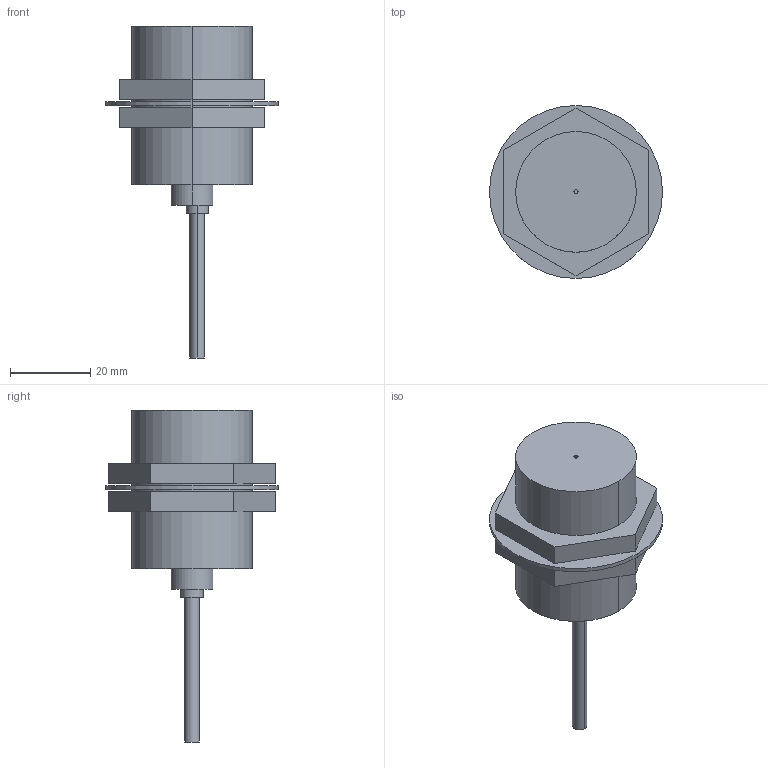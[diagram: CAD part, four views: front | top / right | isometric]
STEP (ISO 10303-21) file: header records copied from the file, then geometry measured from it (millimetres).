
FILE_DESCRIPTION (( 'STEP AP203' ), '1' );
FILE_NAME ('GX-30MU.STEP', '2005-11-09T07:32:09', ( '' ), ( '' ), 'SwSTEP 2.0', 'SolidWorks 2004073', '' );
FILE_SCHEMA (( 'CONFIG_CONTROL_DESIGN' ));
Length unit declared in the file: millimetre
Products named in the file (1): GX-30MU
Bounding box: 43 x 43 x 82.5 mm (x, y, z)
Volume: 33659.7 mm3; surface area: 11314.1 mm2
Topology: 4 solids, 4 shells, 45 faces, 96 edges, 64 vertices
Faces by surface type: plane 25, cylinder 20
Entity records: 1313 total; most frequent: DIRECTION 228, CARTESIAN_POINT 206, ORIENTED_EDGE 192, EDGE_CURVE 96, AXIS2_PLACEMENT_3D 86, VERTEX_POINT 64, EDGE_LOOP 56, VECTOR 56
